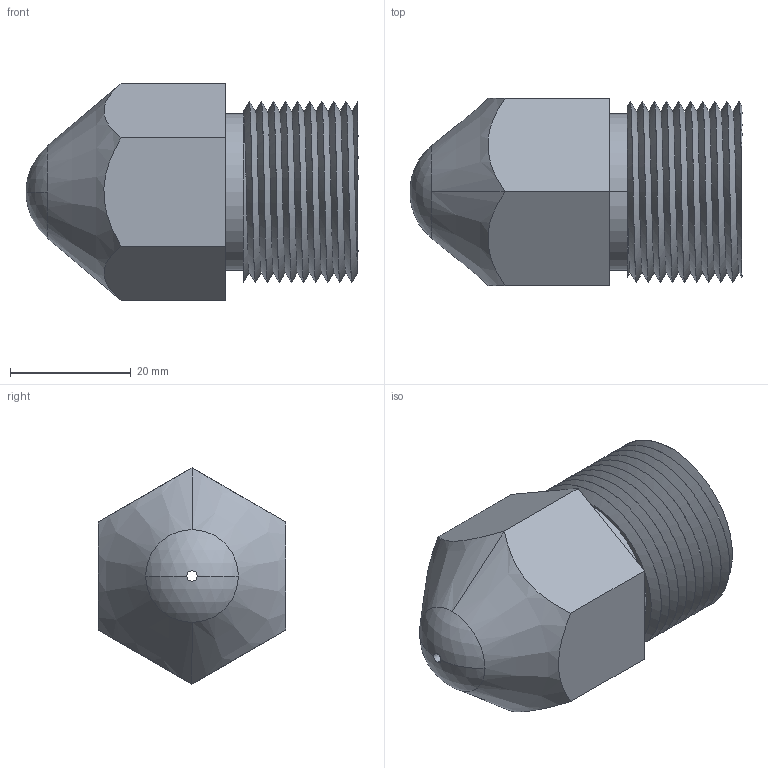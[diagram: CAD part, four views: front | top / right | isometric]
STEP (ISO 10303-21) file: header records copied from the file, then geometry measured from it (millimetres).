
FILE_DESCRIPTION (( 'STEP AP203' ), '1' );
FILE_NAME ('M30X2螺栓头.STEP', '2021-03-30T16:59:01', ( '微软用户' ), ( '微软中国' ), 'SwSTEP 2.0', 'SolidWorks 2013', '' );
FILE_SCHEMA (( 'CONFIG_CONTROL_DESIGN' ));
Length unit declared in the file: millimetre
Products named in the file (1): M30X2蹟邡芛
Bounding box: 54.96 x 31 x 35.8 mm (x, y, z)
Volume: 26462.8 mm3; surface area: 9774.5 mm2
Topology: 1 solids, 1 shells, 46 faces, 121 edges, 78 vertices
Faces by surface type: cylinder 27, plane 9, cone 6, sphere 2, bspline 2
Entity records: 3257 total; most frequent: CARTESIAN_POINT 2166, ORIENTED_EDGE 242, DIRECTION 186, EDGE_CURVE 121, VERTEX_POINT 78, AXIS2_PLACEMENT_3D 71, EDGE_LOOP 49, FACE_OUTER_BOUND 46
